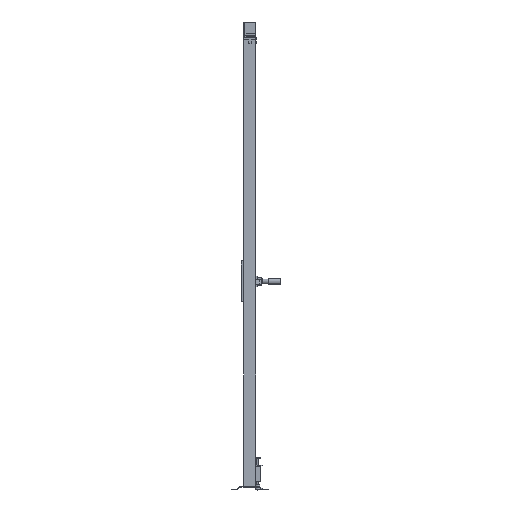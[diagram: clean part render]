
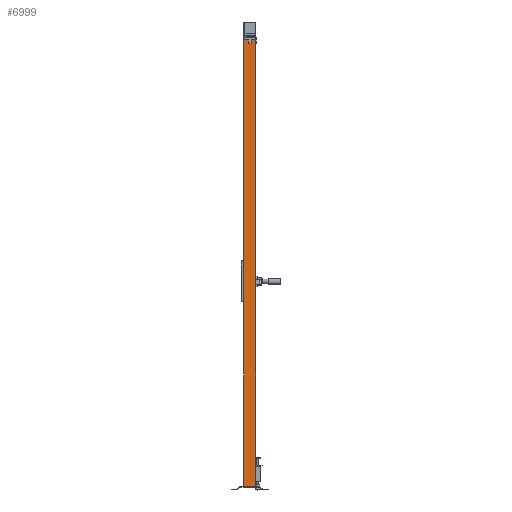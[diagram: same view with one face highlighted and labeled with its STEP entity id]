
A CAD part, left-side view. The second image highlights one B-rep face of the part: STEP entity #6999.
In plain terms, the highlighted planar face has unit normal (-1, 0, 0).
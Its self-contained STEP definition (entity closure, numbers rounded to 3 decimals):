
#866=FACE_OUTER_BOUND('',#1218,.T.);
#1218=EDGE_LOOP('',(#5300,#5301,#5302,#5303));
#1732=LINE('',#10190,#2617);
#1736=LINE('',#10199,#2621);
#1738=LINE('',#10202,#2623);
#1740=LINE('',#10205,#2625);
#2617=VECTOR('',#8214,1.);
#2621=VECTOR('',#8220,1.);
#2623=VECTOR('',#8224,1.);
#2625=VECTOR('',#8228,1.);
#3436=VERTEX_POINT('',#10187);
#3437=VERTEX_POINT('',#10189);
#3440=VERTEX_POINT('',#10196);
#3441=VERTEX_POINT('',#10198);
#4157=EDGE_CURVE('',#3436,#3437,#1732,.T.);
#4161=EDGE_CURVE('',#3440,#3441,#1736,.T.);
#4163=EDGE_CURVE('',#3437,#3440,#1738,.T.);
#4165=EDGE_CURVE('',#3436,#3441,#1740,.T.);
#5300=ORIENTED_EDGE('',*,*,#4165,.T.);
#5301=ORIENTED_EDGE('',*,*,#4161,.F.);
#5302=ORIENTED_EDGE('',*,*,#4163,.F.);
#5303=ORIENTED_EDGE('',*,*,#4157,.F.);
#6694=PLANE('',#7403);
#6999=ADVANCED_FACE('',(#866),#6694,.F.);
#7403=AXIS2_PLACEMENT_3D('',#10204,#8226,#8227);
#8214=DIRECTION('',(0.,-1.,0.));
#8220=DIRECTION('',(0.,1.,0.));
#8224=DIRECTION('',(0.,0.,-1.));
#8226=DIRECTION('center_axis',(1.,0.,0.));
#8227=DIRECTION('ref_axis',(0.,0.,-1.));
#8228=DIRECTION('',(0.,0.,-1.));
#10187=CARTESIAN_POINT('',(-30.,30.,2320.));
#10189=CARTESIAN_POINT('',(-30.,-30.,2320.));
#10190=CARTESIAN_POINT('',(-30.,0.,2320.));
#10196=CARTESIAN_POINT('',(-30.,-30.,20.));
#10198=CARTESIAN_POINT('',(-30.,30.,20.));
#10199=CARTESIAN_POINT('',(-30.,0.,20.));
#10202=CARTESIAN_POINT('',(-30.,-30.,1170.));
#10204=CARTESIAN_POINT('Origin',(-30.,0.,
1170.));
#10205=CARTESIAN_POINT('',(-30.,30.,1170.));
